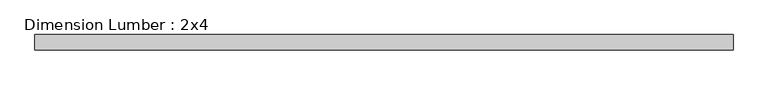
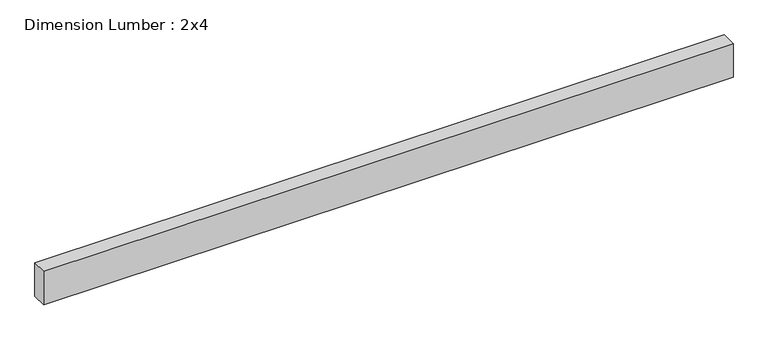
"""IFC4 building model written with IfcOpenShell, lengths in millimetres: beam geometry, Dimension Lumber : 2x4."""

from ifc_helpers import new_model, si_unit, frame, origin, place, context, project, spatial, polyline, outline, extrude, source, transform, mapped, element, save


def dimension_lumber_2x4_bcb2a2e5(model_context):
    return source(origin(), model_context, "Body", "SweptSolid", [
        extrude(outline(polyline([(866.5104167, 19.05), (866.5104167, -19.05), (-866.5104161, -19.05), (-866.5104161, 19.05), (866.5104167, 19.05)])), frame((0.0, 0.0, -44.45), z_axis=(0.0, 0.0, 1.0), x_axis=(1.0, 0.0, 0.0)), (0.0, 0.0, 1.0), 88.9),
    ])


if __name__ == "__main__":
    model = new_model("IFC4")
    model_context = context("Model", 3, world=origin())
    ifc_project = project(units=[si_unit("LENGTHUNIT", "METRE", prefix="MILLI")], contexts=[model_context])
    site = spatial("IfcSite", under=ifc_project)
    building = spatial("IfcBuilding", under=site)
    placement = place(None, origin())
    dimension_lumber_2x4_shape = dimension_lumber_2x4_bcb2a2e5(model_context)
    element("IfcBeam", 1, ObjectType="Dimension Lumber : 2x4", at=placement, inside=building, context=model_context, shape_type="MappedRepresentation", body=[
        mapped(dimension_lumber_2x4_shape, transform((0.0, 0.0, 0.0), x_axis=(1.0, 0.0, 0.0), y_axis=(0.0, 1.0, 0.0), z_axis=(0.0, 0.0, 1.0))),
    ])
    save(model, "model.ifc")
